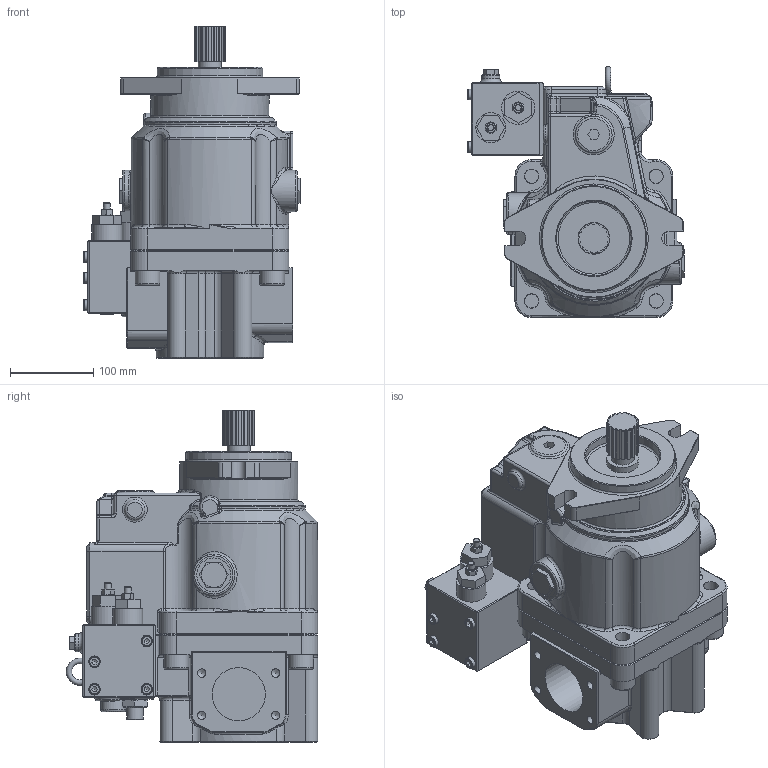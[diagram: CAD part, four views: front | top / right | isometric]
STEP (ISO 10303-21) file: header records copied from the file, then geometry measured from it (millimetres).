
FILE_DESCRIPTION(/* description */ (''),/* implementation_level */ '2;1');
FILE_NAME(/* name */ 'C:\Users\MNORMAN\Desktop\Temp Stuff\K3VL112 B 1ALWS L0.stp',/* time_stamp */ '2015-11-20T08:34:19+00:00',/* author */ ('mnorman'),/* organization */ (''),/* preprocessor_version */ 'ST-DEVELOPER v16.1',/* originating_system */ 'Autodesk Inventor 2016',/* authorisation */ '');
FILE_SCHEMA (('AUTOMOTIVE_DESIGN { 1 0 10303 214 3 1 1 }'));
Length unit declared in the file: millimetre
Products named in the file (1): K3VL112 B 1ALWS L0
Bounding box: 261 x 302.43 x 399.42 mm (x, y, z)
Volume: 10550627 mm3; surface area: 638406.4 mm2
Topology: 1 solids, 20 shells, 1198 faces, 2834 edges, 1675 vertices
Faces by surface type: plane 443, cylinder 305, cone 175, bspline 157, torus 98, sphere 20
Full cylindrical faces by diameter (mm): 4.917 x4, 6.647 x4, 8 x9, 8.376 x8, 9 x4, 10.106 x8, 11.835 x4, 13 x4, 14 x4, 16 x2, 17.294 x5, 19.177 x1, 20 x5, 22 x5, 28 x1, 30 x5, 32 x6, 36 x1, 38.1 x1, 40 x1, 41 x2, 50 x1, 64 x1, 75 x1, 82.55 x1, 90 x2, 126.975 x1, 142.365 x1
Entity records: 41174 total; most frequent: CARTESIAN_POINT 14684, DIRECTION 5149, ORIENTED_EDGE 5114, EDGE_CURVE 2557, AXIS2_PLACEMENT_3D 2047, VERTEX_POINT 1618, EDGE_LOOP 1437, STYLED_ITEM 1199
